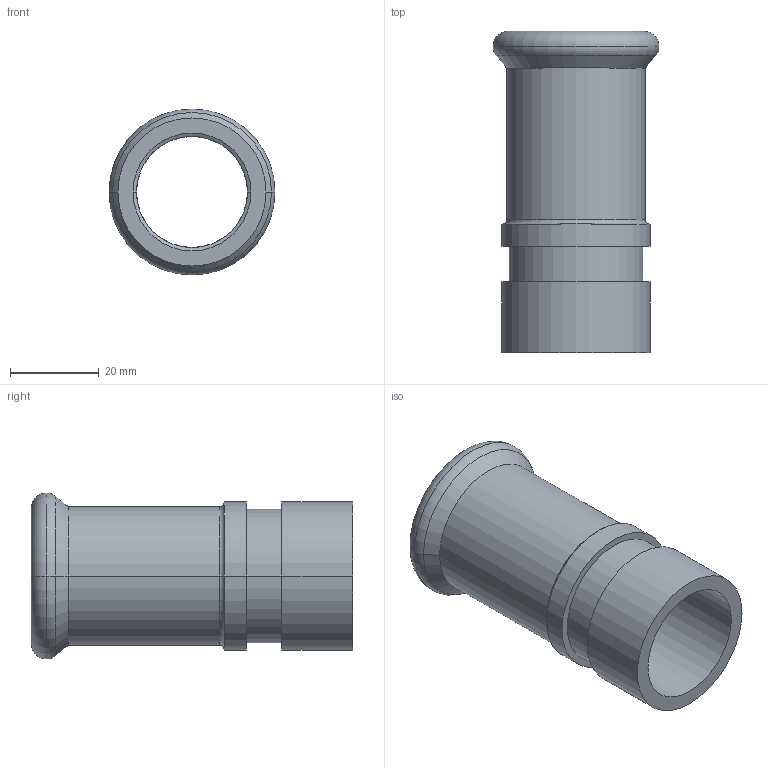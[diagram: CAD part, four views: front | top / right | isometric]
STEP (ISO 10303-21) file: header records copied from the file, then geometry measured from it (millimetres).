
FILE_DESCRIPTION(('CoCreate Modeling STEP Export'),'2;1');
FILE_NAME('C1442 33x28.stp','2014-11-12T16:40:49',(''),(''),'CoCreate Modeling STEP processor for AP214 (Solid Model)','CoCreate Modeling 17.00A 17-Jun-2010 (C) Parametric Technology GmbH','');
FILE_SCHEMA(('AUTOMOTIVE_DESIGN { 1 0 10303 214 1 1 1 1 }'));
Length unit declared in the file: millimetre
Products named in the file (2): CP1442_33x28
Assembly tree (1 placements, depth 2):
  CP1442_33x28
    CP1442_33x28
Bounding box: 37.45 x 72.5 x 37.45 mm (x, y, z)
Volume: 15827.8 mm3; surface area: 15027.1 mm2
Topology: 1 solids, 1 shells, 36 faces, 74 edges, 46 vertices
Faces by surface type: cylinder 18, plane 8, torus 6, cone 4
Entity records: 824 total; most frequent: ORIENTED_EDGE 148, DIRECTION 124, CARTESIAN_POINT 119, EDGE_CURVE 74, AXIS2_PLACEMENT_3D 51, VERTEX_POINT 46, EDGE_LOOP 44, FACE_OUTER_BOUND 36
